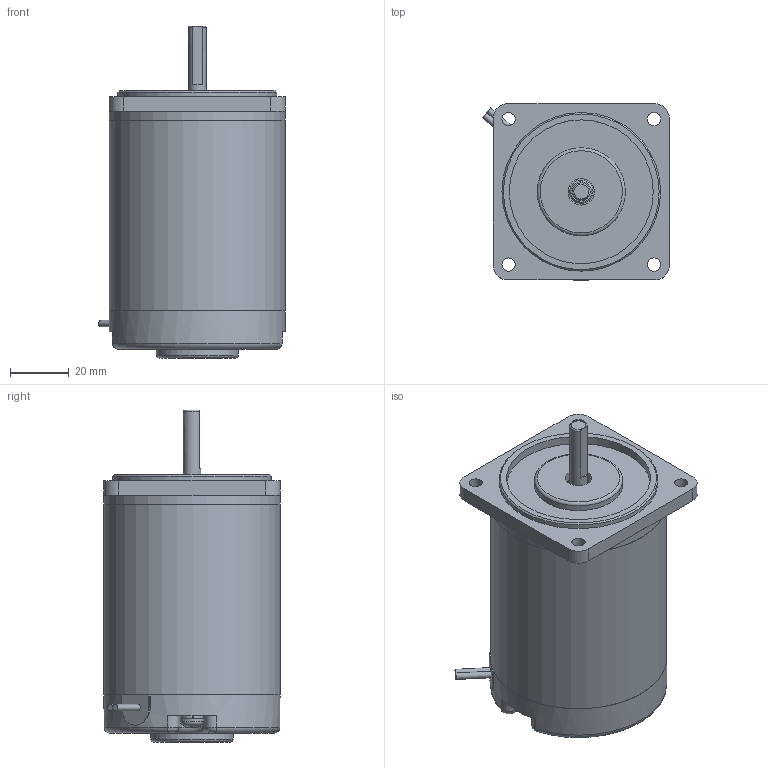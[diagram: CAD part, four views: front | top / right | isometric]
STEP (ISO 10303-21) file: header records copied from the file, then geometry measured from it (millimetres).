
FILE_DESCRIPTION((''),'2;1');
FILE_NAME('D:\연구개발부2팀 1파트\10_진행업무\3D_60각\S6D15-ㅁD.stp','2013-06-05T15:34:57',('song'),(''),'Autodesk Inventor 2011','Autodesk Inventor 2011','');
FILE_SCHEMA(('AUTOMOTIVE_DESIGN { 1 0 10303 214 1 1 1 1 }'));
Length unit declared in the file: millimetre
Products named in the file (9): S6D15-12; FRONT HOUSING; REAR HOUSING ASS'Y; REAR HOUSING; cord bush; NF EN ISO 7045 - Z M4 x 40 - 4.8 - Z; AS 1968 4; PIPE HOUSING; shaft_D-CUTt
Assembly tree (9 placements, depth 2):
  S6D15-12
    FRONT HOUSING
    PIPE HOUSING
    shaft_D-CUTt
  REAR HOUSING ASS'Y
    REAR HOUSING
    cord bush
    NF EN ISO 7045 - Z M4 x 40 - 4.8 - Z  x2
    AS 1968 4  x2
Bounding box: 63.59 x 60 x 113 mm (x, y, z)
Volume: 242575.3 mm3; surface area: 39545.1 mm2
Topology: 9 solids, 9 shells, 186 faces, 428 edges, 270 vertices
Faces by surface type: plane 84, cylinder 43, cone 36, torus 17, bspline 4, sphere 2
Full cylindrical faces by diameter (mm): 2.2 x2, 3.621 x2, 4 x2, 4.5 x6, 6 x1, 8 x1, 9 x1, 28 x1, 30 x1, 49 x1, 54 x1, 55 x1, 60 x3
Entity records: 4476 total; most frequent: CARTESIAN_POINT 1188, DIRECTION 684, ORIENTED_EDGE 558, AXIS2_PLACEMENT_3D 300, EDGE_CURVE 279, VERTEX_POINT 192, EDGE_LOOP 190, FACE_OUTER_BOUND 138
